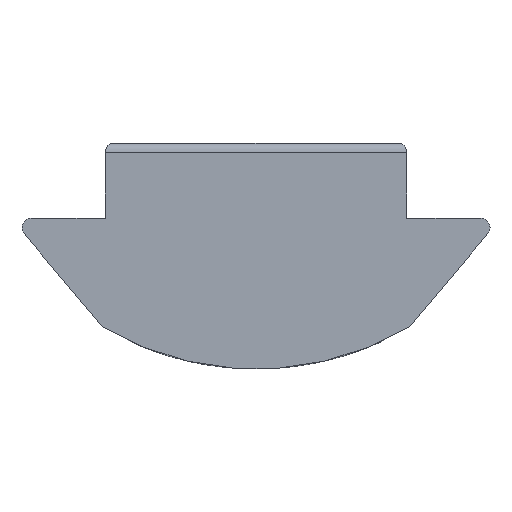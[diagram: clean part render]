
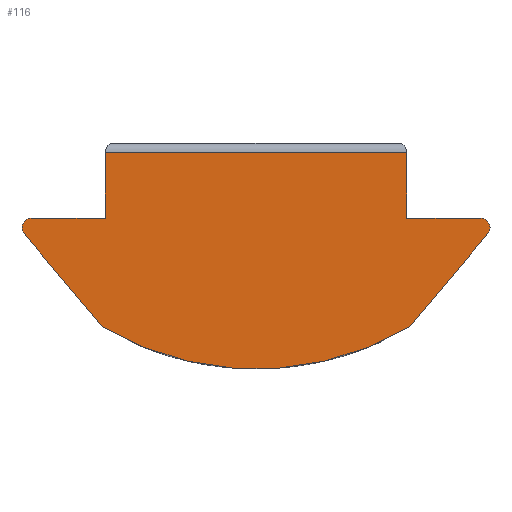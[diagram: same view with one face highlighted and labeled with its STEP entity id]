
A CAD part, front view. The second image highlights one B-rep face of the part: STEP entity #116.
In plain terms, the highlighted planar face has unit normal (0, -1, 0).
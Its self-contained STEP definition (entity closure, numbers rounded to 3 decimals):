
#2 = AXIS2_PLACEMENT_3D ( 'NONE', #136, #137, #138 ) ;
#8 = AXIS2_PLACEMENT_3D ( 'NONE', #131, #132, #133 ) ;
#15 = AXIS2_PLACEMENT_3D ( 'NONE', #269, #270, #271 ) ;
#116 = ADVANCED_FACE ( 'NONE', ( #621 ), #193, .F. ) ;
#131 = CARTESIAN_POINT ( 'NONE',  ( -5.964, -10., -4.25 ) ) ;
#132 = DIRECTION ( 'NONE',  ( 0., -1., 0. ) ) ;
#133 = DIRECTION ( 'NONE',  ( 0., 0., 1. ) ) ;
#134 = CARTESIAN_POINT ( 'NONE',  ( -4., -10., -4. ) ) ;
#136 = CARTESIAN_POINT ( 'NONE',  ( 5.964, -10., -4.25 ) ) ;
#137 = DIRECTION ( 'NONE',  ( 0., -1., 0. ) ) ;
#138 = DIRECTION ( 'NONE',  ( 0., 0., 1. ) ) ;
#139 = CARTESIAN_POINT ( 'NONE',  ( -4., -10., -2.25 ) ) ;
#144 = DIRECTION ( 'NONE',  ( 1., 0., 0. ) ) ;
#146 = DIRECTION ( 'NONE',  ( -1., 0., 0. ) ) ;
#158 = CARTESIAN_POINT ( 'NONE',  ( -4., -10., -2. ) ) ;
#159 = DIRECTION ( 'NONE',  ( 0., 0., -1. ) ) ;
#160 = DIRECTION ( 'NONE',  ( 0., 0., 1. ) ) ;
#167 = CARTESIAN_POINT ( 'NONE',  ( 6.5, -10., -4. ) ) ;
#168 = CARTESIAN_POINT ( 'NONE',  ( 4., -10., -4. ) ) ;
#172 = CARTESIAN_POINT ( 'NONE',  ( 4.084, -10., -6.879 ) ) ;
#178 = DIRECTION ( 'NONE',  ( 1., 0., 0. ) ) ;
#182 = DIRECTION ( 'NONE',  ( -0.643, 0., -0.766 ) ) ;
#193 = PLANE ( 'NONE',  #672 ) ;
#194 = DIRECTION ( 'NONE',  ( 0., 1., 0. ) ) ;
#195 = CARTESIAN_POINT ( 'NONE',  ( 0., -10., 0. ) ) ;
#200 = DIRECTION ( 'NONE',  ( 0., 0., 1. ) ) ;
#269 = CARTESIAN_POINT ( 'NONE',  ( 0., -10., 0. ) ) ;
#270 = DIRECTION ( 'NONE',  ( 0., 1., 0. ) ) ;
#271 = DIRECTION ( 'NONE',  ( 0., 0., 1. ) ) ;
#350 = ORIENTED_EDGE ( 'NONE', *, *, #631, .T. ) ;
#370 = ORIENTED_EDGE ( 'NONE', *, *, #626, .T. ) ;
#371 = ORIENTED_EDGE ( 'NONE', *, *, #651, .F. ) ;
#372 = ORIENTED_EDGE ( 'NONE', *, *, #647, .F. ) ;
#381 = ORIENTED_EDGE ( 'NONE', *, *, #625, .T. ) ;
#395 = LINE ( 'NONE', #167, #405 ) ;
#396 = LINE ( 'NONE', #168, #397 ) ;
#397 = VECTOR ( 'NONE', #159, 1000. ) ;
#402 = LINE ( 'NONE', #172, #409 ) ;
#405 = VECTOR ( 'NONE', #178, 1000. ) ;
#409 = VECTOR ( 'NONE', #182, 1000. ) ;
#410 = CIRCLE ( 'NONE', #15, 8. ) ;
#437 = ORIENTED_EDGE ( 'NONE', *, *, #643, .F. ) ;
#456 = ORIENTED_EDGE ( 'NONE', *, *, #638, .F. ) ;
#464 = ORIENTED_EDGE ( 'NONE', *, *, #630, .F. ) ;
#467 = ORIENTED_EDGE ( 'NONE', *, *, #627, .F. ) ;
#468 = ORIENTED_EDGE ( 'NONE', *, *, #649, .F. ) ;
#472 = VERTEX_POINT ( 'NONE', #543 ) ;
#478 = VERTEX_POINT ( 'NONE', #548 ) ;
#481 = VERTEX_POINT ( 'NONE', #549 ) ;
#482 = VERTEX_POINT ( 'NONE', #550 ) ;
#486 = VERTEX_POINT ( 'NONE', #554 ) ;
#488 = VERTEX_POINT ( 'NONE', #556 ) ;
#519 = VERTEX_POINT ( 'NONE', #561 ) ;
#520 = VERTEX_POINT ( 'NONE', #562 ) ;
#522 = VERTEX_POINT ( 'NONE', #564 ) ;
#525 = VERTEX_POINT ( 'NONE', #567 ) ;
#527 = EDGE_LOOP ( 'NONE', ( #437, #350, #456, #464, #381, #467, #371, #468, #370, #372 ) ) ;
#543 = CARTESIAN_POINT ( 'NONE',  ( 5.964, -10., -4. ) ) ;
#548 = CARTESIAN_POINT ( 'NONE',  ( 4., -10., -4. ) ) ;
#549 = CARTESIAN_POINT ( 'NONE',  ( 6.155, -10., -4.411 ) ) ;
#550 = CARTESIAN_POINT ( 'NONE',  ( -4., -10., -2.25 ) ) ;
#554 = CARTESIAN_POINT ( 'NONE',  ( 4., -10., -2.25 ) ) ;
#556 = CARTESIAN_POINT ( 'NONE',  ( -4., -10., -4. ) ) ;
#561 = CARTESIAN_POINT ( 'NONE',  ( -6.155, -10., -4.411 ) ) ;
#562 = CARTESIAN_POINT ( 'NONE',  ( -5.964, -10., -4. ) ) ;
#564 = CARTESIAN_POINT ( 'NONE',  ( -4.084, -10., -6.879 ) ) ;
#567 = CARTESIAN_POINT ( 'NONE',  ( 4.084, -10., -6.879 ) ) ;
#568 = DIRECTION ( 'NONE',  ( -0.643, 0., 0.766 ) ) ;
#569 = CARTESIAN_POINT ( 'NONE',  ( -6.5, -10., -4. ) ) ;
#573 = LINE ( 'NONE', #134, #588 ) ;
#577 = VECTOR ( 'NONE', #568, 1000. ) ;
#582 = LINE ( 'NONE', #569, #577 ) ;
#583 = CIRCLE ( 'NONE', #8, 0.25 ) ;
#585 = LINE ( 'NONE', #139, #590 ) ;
#586 = CIRCLE ( 'NONE', #2, 0.25 ) ;
#588 = VECTOR ( 'NONE', #144, 1000. ) ;
#590 = VECTOR ( 'NONE', #146, 1000. ) ;
#601 = LINE ( 'NONE', #158, #604 ) ;
#604 = VECTOR ( 'NONE', #160, 1000. ) ;
#621 = FACE_OUTER_BOUND ( 'NONE', #527, .T. ) ;
#625 = EDGE_CURVE ( 'NONE', #520, #519, #583, .T. ) ;
#626 = EDGE_CURVE ( 'NONE', #481, #472, #586, .T. ) ;
#627 = EDGE_CURVE ( 'NONE', #522, #519, #582, .T. ) ;
#630 = EDGE_CURVE ( 'NONE', #520, #488, #573, .T. ) ;
#631 = EDGE_CURVE ( 'NONE', #486, #482, #585, .T. ) ;
#638 = EDGE_CURVE ( 'NONE', #488, #482, #601, .T. ) ;
#643 = EDGE_CURVE ( 'NONE', #486, #478, #396, .T. ) ;
#647 = EDGE_CURVE ( 'NONE', #478, #472, #395, .T. ) ;
#649 = EDGE_CURVE ( 'NONE', #481, #525, #402, .T. ) ;
#651 = EDGE_CURVE ( 'NONE', #525, #522, #410, .T. ) ;
#672 = AXIS2_PLACEMENT_3D ( 'NONE', #195, #194, #200 ) ;
